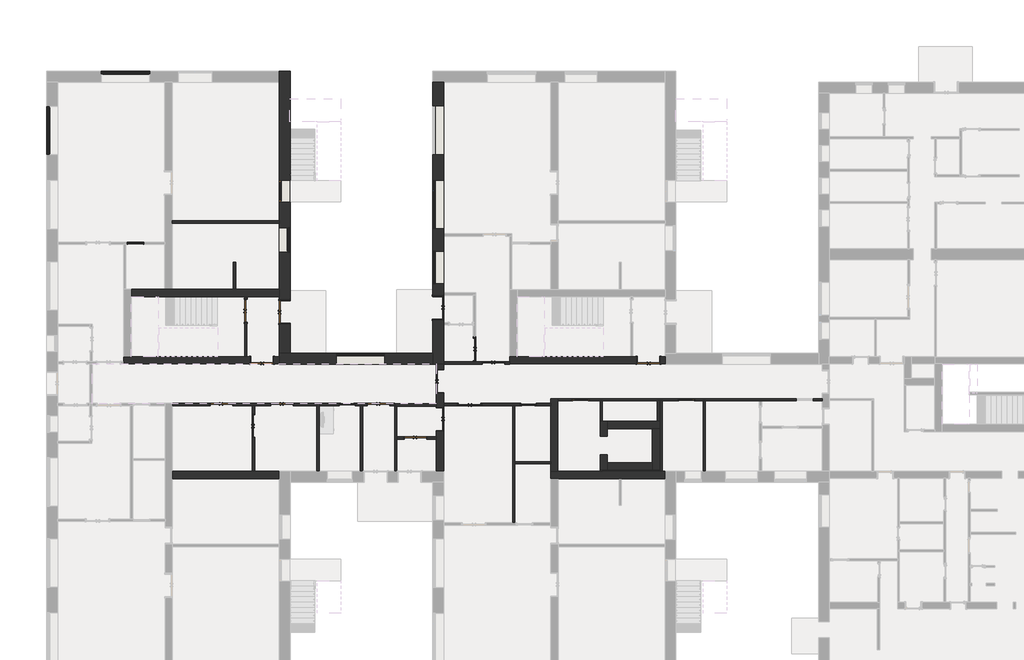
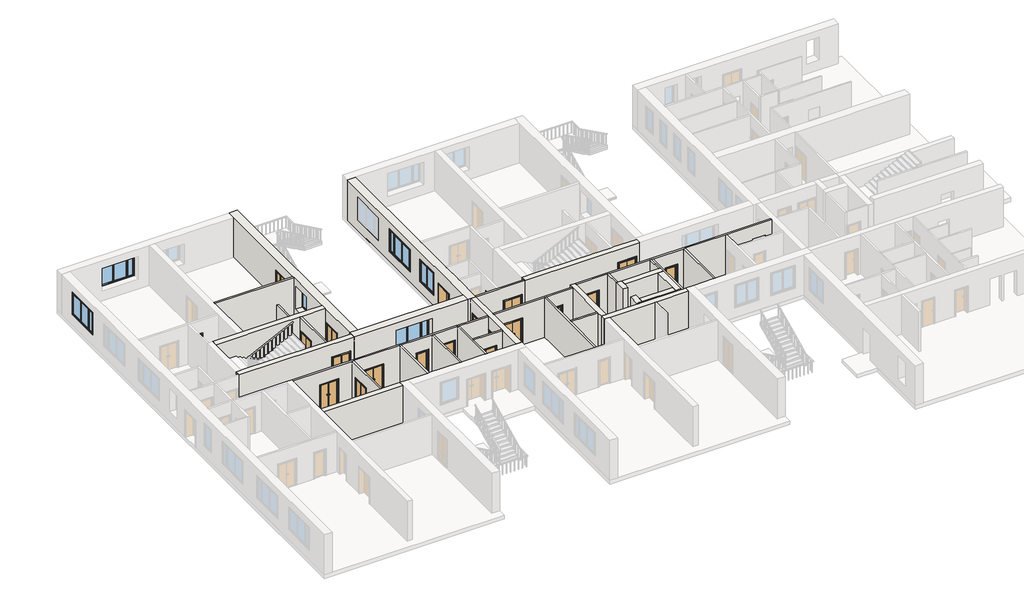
# One storey, part 3 of 10: 36 walls, 21 doors, 6 windows.
"""IFC4 building model written with IfcOpenShell, lengths in millimetres."""

from ifc_helpers import new_model, si_unit, frame, origin, origin_with_axes, place, context, project, spatial, polyline, outline, extrude, faceted_brep, transform, mapped, element, save
from components import door_ad1fb5ee, door_6cda5d05, door_6ba15531, door_47037448, door_428ffb38, window_17d24cb2, window_825c4489, window_e44eff39, window_8fb4b093

model = new_model("IFC4")

# Units and contexts
model_context = context("Model", 3, world=origin())
ifc_project = project(units=[si_unit("LENGTHUNIT", "METRE", prefix="MILLI")], contexts=[model_context])

# Site, building, storey
site = spatial("IfcSite", under=ifc_project)
building = spatial("IfcBuilding", under=site)
storey = spatial("IfcBuildingStorey", under=building, Name="1 этаж", Elevation=0.0)

# Doors
placement = place(None, origin())
door_shape = door_ad1fb5ee(model_context)
element("IfcDoor", 1, ObjectType="Внутренняя дверь 1-Навесная - 30970-2002 : ДПВ Г Б Л 2100-870 ГОСТ 30970-2002", at=placement, inside=storey, context=model_context, shape_type="MappedRepresentation", body=[
    mapped(door_shape, transform((-33469.8240021, 12998.1370105, 0.0), x_axis=(1.0, 0.0, 0.0), y_axis=(0.0, 1.0, 0.0), z_axis=(0.0, 0.0, 1.0))),
])
door_2_shape = door_6cda5d05(model_context)
element("IfcDoor", 2, ObjectType="Наружная дверь 2-Навесная - Один проем наружу с порогом - 31173-2003 : ДСН ДКН М2 2100-1300 ГОСТ 31173-2003", at=placement, inside=storey, context=model_context, shape_type="MappedRepresentation", body=[
    mapped(door_2_shape, transform((-13392.3240021, 6287.1370105, 0.0), x_axis=(-1.0, 0.0, 0.0), y_axis=(0.0, -1.0, 0.0), z_axis=(0.0, 0.0, 1.0))),
])
element("IfcDoor", 3, ObjectType="Наружная дверь 2-Навесная - Один проем наружу с порогом - 31173-2003 : ДСН ДКН М2 2100-1300 ГОСТ 31173-2003", at=placement, inside=storey, context=model_context, shape_type="MappedRepresentation", body=[
    mapped(door_2_shape, transform((-14464.8240021, 7047.1370105, 0.0), x_axis=(0.0, 1.0, 0.0), y_axis=(-1.0, 0.0, 0.0), z_axis=(0.0, 0.0, 1.0))),
])
door_3_shape = door_6ba15531(model_context)
element("IfcDoor", 4, ObjectType="Наружная дверь 2-Навесная - Один проем наружу с порогом - 31173-2003 : ДСН ДКН М2 2100-1300 ГОСТ 31173-2003", at=placement, inside=storey, context=model_context, shape_type="MappedRepresentation", body=[
    mapped(door_3_shape, transform((-16392.3240021, 5264.6370105, 0.0), x_axis=(0.0, -1.0, 0.0), y_axis=(1.0, 0.0, 0.0), z_axis=(0.0, 0.0, 1.0))),
])
element("IfcDoor", 5, ObjectType="Наружная дверь 2-Навесная - Один проем наружу с порогом - 31173-2003 : ДСН ДКН М2 2100-1300 ГОСТ 31173-2003", at=placement, inside=storey, context=model_context, shape_type="MappedRepresentation", body=[
    mapped(door_3_shape, transform((-4706.0740021, 6444.6370105, 0.0), x_axis=(1.0, 0.0, 0.0), y_axis=(0.0, 1.0, 0.0), z_axis=(0.0, 0.0, 1.0))),
])
element("IfcDoor", 6, ObjectType="Наружная дверь 2-Навесная - Один проем наружу с порогом - 31173-2003 : ДСН ДКН М2 2100-1300 ГОСТ 31173-2003", at=placement, inside=storey, context=model_context, shape_type="MappedRepresentation", body=[
    mapped(door_3_shape, transform((-16392.3240021, 3137.1370105, 0.0), x_axis=(0.0, 1.0, 0.0), y_axis=(-1.0, 0.0, 0.0), z_axis=(0.0, 0.0, 1.0))),
])
element("IfcDoor", 7, ObjectType="Наружная дверь 2-Навесная - Один проем наружу с порогом - 31173-2003 : ДСН ДКН М2 2100-1300 ГОСТ 31173-2003", at=placement, inside=storey, context=model_context, shape_type="MappedRepresentation", body=[
    mapped(door_3_shape, transform((-26379.8240021, 6444.6370105, 0.0), x_axis=(1.0, 0.0, 0.0), y_axis=(0.0, 1.0, 0.0), z_axis=(0.0, 0.0, 1.0))),
])
element("IfcDoor", 8, ObjectType="Наружная дверь 2-Навесная - Один проем наружу с порогом - 31173-2003 : ДСН ДКН М2 2100-1300 ГОСТ 31173-2003", at=placement, inside=storey, context=model_context, shape_type="MappedRepresentation", body=[
    mapped(door_2_shape, transform((-14732.3240021, 3962.1370105, 0.0), x_axis=(1.0, 0.0, 0.0), y_axis=(0.0, 1.0, 0.0), z_axis=(0.0, 0.0, 1.0))),
])
element("IfcDoor", 9, ObjectType="Наружная дверь 2-Навесная - Один проем наружу с порогом - 31173-2003 : ДСН ДКН М2 2100-1300 ГОСТ 31173-2003", at=placement, inside=storey, context=model_context, shape_type="MappedRepresentation", body=[
    mapped(door_2_shape, transform((-28649.8240021, 3962.1370105, 0.0), x_axis=(-1.0, 0.0, 0.0), y_axis=(0.0, -1.0, 0.0), z_axis=(0.0, 0.0, 1.0))),
])
element("IfcDoor", 10, ObjectType="Наружная дверь 2-Навесная - Один проем наружу с порогом - 31173-2003 : ДСН ДКН М2 2100-1300 ГОСТ 31173-2003", at=placement, inside=storey, context=model_context, shape_type="MappedRepresentation", body=[
    mapped(door_2_shape, transform((-26849.8240021, 2762.1370105, 0.0), x_axis=(0.0, -1.0, 0.0), y_axis=(1.0, 0.0, 0.0), z_axis=(0.0, 0.0, 1.0))),
])
element("IfcDoor", 11, ObjectType="Наружная дверь 2-Навесная - Один проем наружу с порогом - 31173-2003 : ДСН ДКН М2 2100-1300 ГОСТ 31173-2003", at=placement, inside=storey, context=model_context, shape_type="MappedRepresentation", body=[
    mapped(door_2_shape, transform((-25249.8240021, 3962.1370105, 0.0), x_axis=(-1.0, 0.0, 0.0), y_axis=(0.0, -1.0, 0.0), z_axis=(0.0, 0.0, 1.0))),
])
element("IfcDoor", 12, ObjectType="Наружная дверь 2-Навесная - Один проем наружу с порогом - 31173-2003 : ДСН ДКН М2 2100-1300 ГОСТ 31173-2003", at=placement, inside=storey, context=model_context, shape_type="MappedRepresentation", body=[
    mapped(door_2_shape, transform((-19837.3240021, 3962.1370105, 0.0), x_axis=(-1.0, 0.0, 0.0), y_axis=(0.0, -1.0, 0.0), z_axis=(0.0, 0.0, 1.0))),
])
element("IfcDoor", 13, ObjectType="Наружная дверь 2-Навесная - Один проем наружу с порогом - 31173-2003 : ДСН ДКН М2 2100-1300 ГОСТ 31173-2003", at=placement, inside=storey, context=model_context, shape_type="MappedRepresentation", body=[
    mapped(door_2_shape, transform((-17774.8240021, 2087.1370105, 0.0), x_axis=(-1.0, 0.0, 0.0), y_axis=(0.0, -1.0, 0.0), z_axis=(0.0, 0.0, 1.0))),
])
element("IfcDoor", 14, ObjectType="Наружная дверь 2-Навесная - Один проем наружу с порогом - 31173-2003 : ДСН ДКН М2 2100-1300 ГОСТ 31173-2003", at=placement, inside=storey, context=model_context, shape_type="MappedRepresentation", body=[
    mapped(door_2_shape, transform((-27279.8240021, 9214.6370105, 0.0), x_axis=(0.0, -1.0, 0.0), y_axis=(1.0, 0.0, 0.0), z_axis=(0.0, 0.0, 1.0))),
])
door_4_shape = door_47037448(model_context)
element("IfcDoor", 15, ObjectType="Наружная дверь 2-Навесная - Один проем наружу с порогом - 31173-2003 : ДСН ДКН М2 2100-1300 ГОСТ 31173-2003", at=placement, inside=storey, context=model_context, shape_type="MappedRepresentation", body=[
    mapped(door_4_shape, transform((-25107.3240021, 9154.6370105, 0.0), x_axis=(0.0, -1.0, 0.0), y_axis=(1.0, 0.0, 0.0), z_axis=(0.0, 0.0, 1.0))),
])
element("IfcDoor", 16, ObjectType="Наружная дверь 2-Навесная - Один проем наружу с порогом - 31173-2003 : ДСН ДКН М2 2100-1300 ГОСТ 31173-2003", at=placement, inside=storey, context=model_context, shape_type="MappedRepresentation", body=[
    mapped(door_4_shape, transform((-16497.3240021, 9382.1370105, 0.0), x_axis=(0.0, 1.0, 0.0), y_axis=(-1.0, 0.0, 0.0), z_axis=(0.0, 0.0, 1.0))),
])
element("IfcDoor", 17, ObjectType="Внутренняя дверь 1-Навесная - 30970-2002 : ДПВ Г Б Пр 2100-870 ГОСТ 30970-2002", at=placement, inside=storey, context=model_context, shape_type="MappedRepresentation", body=[
    mapped(door_shape, transform((-11439.8240021, 3971.1370105, 0.0), x_axis=(-1.0, 0.0, 0.0), y_axis=(0.0, -1.0, 0.0), z_axis=(0.0, 0.0, 1.0))),
])
element("IfcDoor", 18, ObjectType="Внутренняя дверь 1-Навесная - 30970-2002 : ДПВ Г Б Пр 2100-870 ГОСТ 30970-2002", at=placement, inside=storey, context=model_context, shape_type="MappedRepresentation", body=[
    mapped(door_shape, transform((-8509.8240021, 4223.1370105, 0.0), x_axis=(1.0, 0.0, 0.0), y_axis=(0.0, 1.0, 0.0), z_axis=(0.0, 0.0, 1.0))),
])
element("IfcDoor", 19, ObjectType="Внутренняя дверь 1-Навесная - 30970-2002 : ДПВ Г Б Пр 2100-870 ГОСТ 30970-2002", at=placement, inside=storey, context=model_context, shape_type="MappedRepresentation", body=[
    mapped(door_shape, transform((-2577.3240021, 4223.1370105, 0.0), x_axis=(1.0, 0.0, 0.0), y_axis=(0.0, 1.0, 0.0), z_axis=(0.0, 0.0, 1.0))),
])
element("IfcDoor", 20, ObjectType="Внутренняя дверь 1-Навесная - 30970-2002 : ДПВ Г Б Пр 2100-870 ГОСТ 30970-2002", at=placement, inside=storey, context=model_context, shape_type="MappedRepresentation", body=[
    mapped(door_shape, transform((-21594.7740021, 3953.1370105, 0.0), x_axis=(1.0, 0.0, 0.0), y_axis=(0.0, 1.0, 0.0), z_axis=(0.0, 0.0, 1.0))),
])
door_5_shape = door_428ffb38(model_context)
element("IfcDoor", 21, ObjectType="Балконная дверь 2-Распашная - Сдвоенные переплеты с остеклением - 11214-2003 : БД СП Д1 2175-1174-94 ГОСТ 11214-2003", at=placement, inside=storey, context=model_context, shape_type="MappedRepresentation", body=[
    mapped(door_5_shape, transform((-25107.3240021, 15927.1370105, 0.0), x_axis=(0.0, 1.0, 0.0), y_axis=(-1.0, 0.0, 0.0), z_axis=(0.0, 0.0, 1.0))),
])

# Walls
element("IfcWall", 22, ObjectType="ADSK_Внутренняя_Кирпич_610", at=placement, inside=storey, context=model_context, shape_type="Brep", body=[
    faceted_brep([(-24802.3240021, 22644.6370105, 0.0), (-24802.3240021, 22644.6370105, 3200.0), (-24802.3240021, 6834.6370105, 3200.0), (-24802.3240021, 6834.6370105, 0.0), (-24802.3240021, 8484.6370105, 0.0), (-24802.3240021, 8484.6370105, 2120.0), (-24802.3240021, 9824.6370105, 2120.0), (-24802.3240021, 9824.6370105, 0.0), (-24802.3240021, 12497.1370105, 800.0), (-24802.3240021, 12497.1370105, 2620.0), (-24802.3240021, 13877.1370105, 2620.0), (-24802.3240021, 13877.1370105, 800.0), (-24802.3240021, 15310.1370105, 100.0), (-24802.3240021, 15310.1370105, 2335.0), (-24802.3240021, 16544.1370105, 2335.0), (-24802.3240021, 16544.1370105, 100.0), (-25412.3240021, 22644.6370105, 3200.0), (-25412.3240021, 22644.6370105, 0.0), (-25412.3240021, 22034.6370105, 0.0), (-25412.3240021, 14259.6370105, 0.0), (-25412.3240021, 14114.6370105, 0.0), (-25412.3240021, 10424.6370105, 0.0), (-25412.3240021, 10004.6370105, 0.0), (-25412.3240021, 9824.6370105, 0.0), (-25412.3240021, 9824.6370105, 2120.0), (-25412.3240021, 8484.6370105, 2120.0), (-25412.3240021, 8484.6370105, 0.0), (-25412.3240021, 6834.6370105, 0.0), (-25412.3240021, 6834.6370105, 3200.0), (-25412.3240021, 10004.6370105, 3200.0), (-25412.3240021, 10424.6370105, 3200.0), (-25412.3240021, 14114.6370105, 3200.0), (-25412.3240021, 14259.6370105, 3200.0), (-25412.3240021, 22034.6370105, 3200.0), (-25412.3240021, 12497.1370105, 800.0), (-25412.3240021, 13877.1370105, 800.0), (-25412.3240021, 13877.1370105, 2620.0), (-25412.3240021, 12497.1370105, 2620.0), (-25412.3240021, 15310.1370105, 100.0), (-25412.3240021, 16544.1370105, 100.0), (-25412.3240021, 16544.1370105, 2335.0), (-25412.3240021, 15310.1370105, 2335.0)], [[[0, 1, 2, 3, 4, 5, 6, 7], [8, 9, 10, 11], [12, 13, 14, 15]], [[16, 17, 18, 19, 20, 21, 22, 23, 24, 25, 26, 27, 28, 29, 30, 31, 32, 33], [34, 35, 36, 37], [38, 39, 40, 41]], [[17, 0, 7, 23, 22, 21, 20, 19, 18]], [[3, 27, 26, 4]], [[1, 0, 17, 16]], [[3, 2, 28, 27]], [[25, 5, 4, 26]], [[5, 25, 24, 6]], [[6, 24, 23, 7]], [[9, 8, 34, 37]], [[10, 9, 37, 36]], [[11, 10, 36, 35]], [[8, 11, 35, 34]], [[13, 12, 38, 41]], [[14, 13, 41, 40]], [[15, 14, 40, 39]], [[12, 15, 39, 38]], [[2, 1, 16, 33, 32, 31, 30, 29, 28]]]),
])
element("IfcWall", 23, ObjectType="ADSK_Внутренняя_Кирпич_610", at=placement, inside=storey, context=model_context, shape_type="Brep", body=[
    faceted_brep([(-16802.3240021, 22034.6370105, 3200.0), (-16802.3240021, 22034.6370105, 0.0), (-16802.3240021, 10052.1370105, 0.0), (-16802.3240021, 10052.1370105, 2120.0), (-16802.3240021, 8712.1370105, 2120.0), (-16802.3240021, 8712.1370105, 0.0), (-16802.3240021, 6834.6370105, 0.0), (-16802.3240021, 6224.6370105, 0.0), (-16802.3240021, 6224.6370105, 3200.0), (-16802.3240021, 6834.6370105, 3200.0), (-16802.3240021, 16537.1370105, 800.0), (-16802.3240021, 16537.1370105, 2620.0), (-16802.3240021, 13807.1370105, 2620.0), (-16802.3240021, 13807.1370105, 800.0), (-16802.3240021, 17974.6370105, 800.0), (-16802.3240021, 20704.6370105, 800.0), (-16802.3240021, 20704.6370105, 2620.0), (-16802.3240021, 17974.6370105, 2620.0), (-16802.3240021, 10727.1370105, 800.0), (-16802.3240021, 12557.1370105, 800.0), (-16802.3240021, 12557.1370105, 2620.0), (-16802.3240021, 10727.1370105, 2620.0), (-16192.3240021, 22034.6370105, 3200.0), (-16192.3240021, 13534.6370105, 3200.0), (-16192.3240021, 13409.6370105, 3200.0), (-16192.3240021, 10224.6370105, 3200.0), (-16192.3240021, 10099.6370105, 3200.0), (-16192.3240021, 8549.6370105, 3200.0), (-16192.3240021, 8424.6370105, 3200.0), (-16192.3240021, 6349.6370105, 3200.0), (-16192.3240021, 6224.6370105, 3200.0), (-16192.3240021, 6224.6370105, 0.0), (-16192.3240021, 6349.6370105, 0.0), (-16192.3240021, 8424.6370105, 0.0), (-16192.3240021, 8549.6370105, 0.0), (-16192.3240021, 8712.1370105, 0.0), (-16192.3240021, 8712.1370105, 2120.0), (-16192.3240021, 10052.1370105, 2120.0), (-16192.3240021, 10052.1370105, 0.0), (-16192.3240021, 10099.6370105, 0.0), (-16192.3240021, 10224.6370105, 0.0), (-16192.3240021, 13409.6370105, 0.0), (-16192.3240021, 13534.6370105, 0.0), (-16192.3240021, 22034.6370105, 0.0), (-16192.3240021, 16537.1370105, 800.0), (-16192.3240021, 13807.1370105, 800.0), (-16192.3240021, 13807.1370105, 2620.0), (-16192.3240021, 16537.1370105, 2620.0), (-16192.3240021, 17974.6370105, 800.0), (-16192.3240021, 17974.6370105, 2620.0), (-16192.3240021, 20704.6370105, 2620.0), (-16192.3240021, 20704.6370105, 800.0), (-16192.3240021, 10727.1370105, 800.0), (-16192.3240021, 10727.1370105, 2620.0), (-16192.3240021, 12557.1370105, 2620.0), (-16192.3240021, 12557.1370105, 800.0), (-16592.3240021, 6224.6370105, 0.0), (-16592.3240021, 6224.6370105, 3200.0)], [[[0, 1, 2, 3, 4, 5, 6, 7, 8, 9], [10, 11, 12, 13], [14, 15, 16, 17], [18, 19, 20, 21]], [[22, 23, 24, 25, 26, 27, 28, 29, 30, 31, 32, 33, 34, 35, 36, 37, 38, 39, 40, 41, 42, 43], [44, 45, 46, 47], [48, 49, 50, 51], [52, 53, 54, 55]], [[1, 43, 42, 41, 40, 39, 38, 2]], [[31, 56, 7, 6, 5, 35, 34, 33, 32]], [[1, 0, 22, 43]], [[8, 7, 56, 31, 30, 57]], [[37, 3, 2, 38]], [[3, 37, 36, 4]], [[4, 36, 35, 5]], [[11, 10, 44, 47]], [[12, 11, 47, 46]], [[13, 12, 46, 45]], [[10, 13, 45, 44]], [[49, 48, 14, 17]], [[50, 49, 17, 16]], [[51, 50, 16, 15]], [[48, 51, 15, 14]], [[53, 52, 18, 21]], [[54, 53, 21, 20]], [[55, 54, 20, 19]], [[52, 55, 19, 18]], [[30, 29, 28, 27, 26, 25, 24, 23, 22, 0, 9, 8, 57]]]),
])
element("IfcWall", 24, ObjectType="ADSK_Внутренняя_Кирпич_610", at=placement, inside=storey, context=model_context, shape_type="Brep", body=[
    faceted_brep([(-16802.3240021, 6834.6370105, 0.0), (-24802.3240021, 6834.6370105, 0.0), (-25412.3240021, 6834.6370105, 0.0), (-25412.3240021, 6834.6370105, 3200.0), (-24802.3240021, 6834.6370105, 3200.0), (-16802.3240021, 6834.6370105, 3200.0), (-19482.3240021, 6834.6370105, 800.0), (-19482.3240021, 6834.6370105, 2620.0), (-22212.3240021, 6834.6370105, 2620.0), (-22212.3240021, 6834.6370105, 800.0), (-16802.3240021, 6224.6370105, 0.0), (-16802.3240021, 6224.6370105, 3200.0), (-25412.3240021, 6224.6370105, 3200.0), (-25412.3240021, 6224.6370105, 0.0), (-19482.3240021, 6224.6370105, 800.0), (-22212.3240021, 6224.6370105, 800.0), (-22212.3240021, 6224.6370105, 2620.0), (-19482.3240021, 6224.6370105, 2620.0), (-25412.3240021, 6244.6370105, 0.0), (-25412.3240021, 6644.6370105, 0.0), (-25412.3240021, 6244.6370105, 3200.0), (-25412.3240021, 6644.6370105, 3200.0)], [[[0, 1, 2, 3, 4, 5], [6, 7, 8, 9]], [[10, 11, 12, 13], [14, 15, 16, 17]], [[2, 1, 0, 10, 13, 18, 19]], [[0, 5, 11, 10]], [[3, 2, 19, 18, 13, 12, 20, 21]], [[7, 6, 14, 17]], [[8, 7, 17, 16]], [[9, 8, 16, 15]], [[6, 9, 15, 14]], [[5, 4, 3, 21, 20, 12, 11]]]),
])
element("IfcWall", 25, ObjectType="ADSK_Внутренняя_Кирпич_380+20", at=placement, inside=storey, context=model_context, shape_type="Brep", body=[
    faceted_brep([(-16192.3240021, 6224.6370105, 0.0), (-16192.3240021, 6224.6370105, 3200.0), (-16192.3240021, 4024.6370105, 3200.0), (-16192.3240021, 3899.6370105, 3200.0), (-16192.3240021, 224.6370105, 3200.0), (-16192.3240021, 224.6370105, 0.0), (-16192.3240021, 2467.1370105, 0.0), (-16192.3240021, 2467.1370105, 2120.0), (-16192.3240021, 3807.1370105, 2120.0), (-16192.3240021, 3807.1370105, 0.0), (-16192.3240021, 3899.6370105, 0.0), (-16192.3240021, 4024.6370105, 0.0), (-16192.3240021, 4594.6370105, 0.0), (-16192.3240021, 4594.6370105, 2120.0), (-16192.3240021, 5934.6370105, 2120.0), (-16192.3240021, 5934.6370105, 0.0), (-16592.3240021, 6224.6370105, 3200.0), (-16592.3240021, 6224.6370105, 0.0), (-16592.3240021, 5934.6370105, 0.0), (-16592.3240021, 5934.6370105, 2120.0), (-16592.3240021, 4594.6370105, 2120.0), (-16592.3240021, 4594.6370105, 0.0), (-16592.3240021, 3999.6370105, 0.0), (-16592.3240021, 3874.6370105, 0.0), (-16592.3240021, 3807.1370105, 0.0), (-16592.3240021, 3807.1370105, 2120.0), (-16592.3240021, 2467.1370105, 2120.0), (-16592.3240021, 2467.1370105, 0.0), (-16592.3240021, 2149.6370105, 0.0), (-16592.3240021, 2024.6370105, 0.0), (-16592.3240021, 224.6370105, 0.0), (-16592.3240021, 224.6370105, 3200.0), (-16592.3240021, 2024.6370105, 3200.0), (-16592.3240021, 2149.6370105, 3200.0), (-16592.3240021, 3874.6370105, 3200.0), (-16592.3240021, 3999.6370105, 3200.0)], [[[0, 1, 2, 3, 4, 5, 6, 7, 8, 9, 10, 11, 12, 13, 14, 15]], [[16, 17, 18, 19, 20, 21, 22, 23, 24, 25, 26, 27, 28, 29, 30, 31, 32, 33, 34, 35]], [[17, 0, 15, 18]], [[5, 30, 29, 28, 27, 6]], [[21, 12, 11, 10, 9, 24, 23, 22]], [[1, 0, 17, 16]], [[5, 4, 31, 30]], [[20, 13, 12, 21]], [[13, 20, 19, 14]], [[14, 19, 18, 15]], [[8, 25, 24, 9]], [[25, 8, 7, 26]], [[26, 7, 6, 27]], [[4, 3, 2, 1, 16, 35, 34, 33, 32, 31]]]),
])
element("IfcWall", 26, ObjectType="ADSK_Внутренняя_Перегородка_125", at=placement, inside=storey, context=model_context, shape_type="Brep", body=[
    faceted_brep([(-18937.3240021, 3874.6370105, 0.0), (-18812.3240021, 3874.6370105, 0.0), (-16592.3240021, 3874.6370105, 0.0), (-16592.3240021, 3874.6370105, 3200.0), (-18812.3240021, 3874.6370105, 3200.0), (-18937.3240021, 3874.6370105, 3200.0), (-18937.3240021, 3999.6370105, 0.0), (-18937.3240021, 3999.6370105, 3200.0), (-16592.3240021, 3999.6370105, 3200.0), (-16592.3240021, 3999.6370105, 0.0), (-18937.3240021, 3899.6370105, 0.0), (-18937.3240021, 3899.6370105, 3200.0)], [[[0, 1, 2, 3, 4, 5]], [[6, 7, 8, 9]], [[2, 1, 0, 10, 6, 9]], [[0, 5, 11, 7, 6, 10]], [[3, 2, 9, 8]], [[5, 4, 3, 8, 7, 11]]]),
])
element("IfcWall", 27, ObjectType="ADSK_Внутренняя_Кирпич_380+20", at=placement, inside=storey, context=model_context, shape_type="Brep", body=[
    faceted_brep([(-34132.3240021, 6644.6370105, 0.0), (-34132.3240021, 6644.6370105, 3200.0), (-33712.7240021, 6644.6370105, 3200.0), (-33712.3240021, 6644.6370105, 3200.0), (-28882.0291278, 6644.6370105, 3200.0), (-27342.3240021, 6644.6370105, 3200.0), (-27217.3240021, 6644.6370105, 3200.0), (-25412.3240021, 6644.6370105, 3200.0), (-25412.3240021, 6644.6370105, 0.0), (-25709.8240021, 6644.6370105, 0.0), (-25709.8240021, 6644.6370105, 2120.0), (-27049.8240021, 6644.6370105, 2120.0), (-27049.8240021, 6644.6370105, 0.0), (-27217.3240021, 6644.6370105, 0.0), (-27342.3240021, 6644.6370105, 0.0), (-33712.3240021, 6644.6370105, 0.0), (-25412.3240021, 6244.6370105, 3200.0), (-34132.3240021, 6244.6370105, 3200.0), (-34132.3240021, 6244.6370105, 0.0), (-27049.8240021, 6244.6370105, 0.0), (-27049.8240021, 6244.6370105, 2120.0), (-25709.8240021, 6244.6370105, 2120.0), (-25709.8240021, 6244.6370105, 0.0), (-25412.3240021, 6244.6370105, 0.0), (-34132.3240021, 6369.6370105, 0.0), (-34132.3240021, 6369.6370105, 3200.0)], [[[0, 1, 2, 3, 4, 5, 6, 7, 8, 9, 10, 11, 12, 13, 14, 15]], [[16, 17, 18, 19, 20, 21, 22, 23]], [[8, 23, 22, 9]], [[18, 24, 0, 15, 14, 13, 12, 19]], [[1, 0, 24, 18, 17, 25]], [[8, 7, 16, 23]], [[21, 10, 9, 22]], [[10, 21, 20, 11]], [[11, 20, 19, 12]], [[17, 16, 7, 6, 5, 4, 3, 2, 1, 25]]]),
])
element("IfcWall", 28, ObjectType="ADSK_Внутренняя_Кирпич_380+20х2", at=placement, inside=storey, context=model_context, shape_type="Brep", body=[
    faceted_brep([(-33712.3240021, 10004.6370105, 0.0), (-27342.3240021, 10004.6370105, 0.0), (-27217.3240021, 10004.6370105, 0.0), (-25412.3240021, 10004.6370105, 0.0), (-25412.3240021, 10004.6370105, 3200.0), (-27217.3240021, 10004.6370105, 3200.0), (-27342.3240021, 10004.6370105, 3200.0), (-28882.0291278, 10004.6370105, 3200.0), (-33712.3240021, 10004.6370105, 3200.0), (-33712.3240021, 10424.6370105, 0.0), (-33712.3240021, 10424.6370105, 3200.0), (-31832.3240021, 10424.6370105, 3200.0), (-31412.3240021, 10424.6370105, 3200.0), (-27982.2740021, 10424.6370105, 3200.0), (-27857.2740021, 10424.6370105, 3200.0), (-25412.3240021, 10424.6370105, 3200.0), (-25412.3240021, 10424.6370105, 0.0), (-27857.2740021, 10424.6370105, 0.0), (-27982.2740021, 10424.6370105, 0.0), (-31412.3240021, 10424.6370105, 0.0), (-31832.3240021, 10424.6370105, 0.0)], [[[0, 1, 2, 3, 4, 5, 6, 7, 8]], [[9, 10, 11, 12, 13, 14, 15, 16, 17, 18, 19, 20]], [[3, 2, 1, 0, 9, 20, 19, 18, 17, 16]], [[0, 8, 10, 9]], [[4, 3, 16, 15]], [[8, 7, 6, 5, 4, 15, 14, 13, 12, 11, 10]]]),
])
element("IfcWall", 29, ObjectType="ADSK_Внутренняя_Кирпич_380+20", at=placement, inside=storey, context=model_context, shape_type="Brep", body=[
    faceted_brep([(-3772.3240021, 6644.6370105, 3200.0), (-3772.3240021, 6644.6370105, 0.0), (-4036.0740021, 6644.6370105, 0.0), (-4036.0740021, 6644.6370105, 2120.0), (-5376.0740021, 6644.6370105, 2120.0), (-5376.0740021, 6644.6370105, 0.0), (-5577.3240021, 6644.6370105, 0.0), (-5702.3240021, 6644.6370105, 0.0), (-12072.3240021, 6644.6370105, 0.0), (-12472.3240021, 6644.6370105, 0.0), (-12472.3240021, 6644.6370105, 3200.0), (-12072.3240021, 6644.6370105, 3200.0), (-7241.6291278, 6644.6370105, 3200.0), (-5702.3240021, 6644.6370105, 3200.0), (-5577.3240021, 6644.6370105, 3200.0), (-3772.3240021, 6244.6370105, 3200.0), (-12472.3240021, 6244.6370105, 3200.0), (-12472.3240021, 6244.6370105, 0.0), (-5376.0740021, 6244.6370105, 0.0), (-5376.0740021, 6244.6370105, 2120.0), (-4036.0740021, 6244.6370105, 2120.0), (-4036.0740021, 6244.6370105, 0.0), (-3772.3240021, 6244.6370105, 0.0), (-12472.3240021, 6349.6370105, 0.0), (-12472.3240021, 6349.6370105, 3200.0)], [[[0, 1, 2, 3, 4, 5, 6, 7, 8, 9, 10, 11, 12, 13, 14]], [[15, 16, 17, 18, 19, 20, 21, 22]], [[1, 22, 21, 2]], [[17, 23, 9, 8, 7, 6, 5, 18]], [[1, 0, 15, 22]], [[10, 9, 23, 17, 16, 24]], [[20, 3, 2, 21]], [[3, 20, 19, 4]], [[4, 19, 18, 5]], [[16, 15, 0, 14, 13, 12, 11, 10, 24]]]),
])
element("IfcWall", 30, ObjectType="ADSK_Внутренняя_Кирпич_380+20", at=placement, inside=storey, context=model_context, shape_type="Brep", body=[
    faceted_brep([(-3772.3240021, 204.6370105, 0.0), (-3929.3240021, 204.6370105, 0.0), (-4054.3240021, 204.6370105, 0.0), (-7287.3240021, 204.6370105, 0.0), (-7412.3240021, 204.6370105, 0.0), (-9792.3240021, 204.6370105, 0.0), (-10172.3240021, 204.6370105, 0.0), (-10172.3240021, 204.6370105, 3200.0), (-9792.3240021, 204.6370105, 3200.0), (-7412.3240021, 204.6370105, 3200.0), (-7287.3240021, 204.6370105, 3200.0), (-4054.3240021, 204.6370105, 3200.0), (-3929.3240021, 204.6370105, 3200.0), (-3772.3240021, 204.6370105, 3200.0), (-3772.3240021, -195.3629895, 0.0), (-3772.3240021, -195.3629895, 3200.0), (-6219.7740021, -195.3629895, 3200.0), (-6344.7740021, -195.3629895, 3200.0), (-9772.3240021, -195.3629895, 3200.0), (-10172.3240021, -195.3629895, 3200.0), (-10172.3240021, -195.3629895, 0.0), (-9772.3240021, -195.3629895, 0.0), (-6344.7740021, -195.3629895, 0.0), (-6219.7740021, -195.3629895, 0.0)], [[[0, 1, 2, 3, 4, 5, 6, 7, 8, 9, 10, 11, 12, 13]], [[14, 15, 16, 17, 18, 19, 20, 21, 22, 23]], [[6, 5, 4, 3, 2, 1, 0, 14, 23, 22, 21, 20]], [[0, 13, 15, 14]], [[7, 6, 20, 19]], [[13, 12, 11, 10, 9, 8, 7, 19, 18, 17, 16, 15]]]),
])
element("IfcWall", 31, ObjectType="ADSK_Внутренняя_Кирпич_380", at=placement, inside=storey, context=model_context, shape_type="Brep", body=[
    faceted_brep([(-10172.3240021, 4294.6370105, 0.0), (-10172.3240021, 4024.6370105, 0.0), (-10172.3240021, 3899.6370105, 0.0), (-10172.3240021, 762.1370105, 0.0), (-10172.3240021, 637.1370105, 0.0), (-10172.3240021, 204.6370105, 0.0), (-10172.3240021, 204.6370105, 3200.0), (-10172.3240021, 637.1370105, 3200.0), (-10172.3240021, 762.1370105, 3200.0), (-10172.3240021, 3899.6370105, 3200.0), (-10172.3240021, 4024.6370105, 3200.0), (-10172.3240021, 4294.6370105, 3200.0), (-9792.3240021, 4294.6370105, 0.0), (-9792.3240021, 4294.6370105, 3200.0), (-9792.3240021, 4169.6370105, 3200.0), (-9792.3240021, 204.6370105, 3200.0), (-9792.3240021, 204.6370105, 0.0), (-9792.3240021, 4169.6370105, 0.0)], [[[0, 1, 2, 3, 4, 5, 6, 7, 8, 9, 10, 11]], [[12, 13, 14, 15, 16, 17]], [[5, 4, 3, 2, 1, 0, 12, 17, 16]], [[6, 5, 16, 15]], [[0, 11, 13, 12]], [[11, 10, 9, 8, 7, 6, 15, 14, 13]]]),
])
element("IfcWall", 32, ObjectType="ADSK_Внутренняя_Кирпич_380+20х2", at=placement, inside=storey, context=model_context, shape_type="Brep", body=[
    faceted_brep([(-25412.3240021, 224.6370105, 0.0), (-26787.3240021, 224.6370105, 0.0), (-26912.3240021, 224.6370105, 0.0), (-31412.3240021, 224.6370105, 0.0), (-31412.3240021, 224.6370105, 3200.0), (-26912.3240021, 224.6370105, 3200.0), (-26787.3240021, 224.6370105, 3200.0), (-25412.3240021, 224.6370105, 3200.0), (-25412.3240021, -195.3629895, 0.0), (-25412.3240021, -195.3629895, 3200.0), (-31412.3240021, -195.3629895, 3200.0), (-31412.3240021, -195.3629895, 0.0)], [[[0, 1, 2, 3, 4, 5, 6, 7]], [[8, 9, 10, 11]], [[3, 2, 1, 0, 8, 11]], [[0, 7, 9, 8]], [[4, 3, 11, 10]], [[7, 6, 5, 4, 10, 9]]]),
])
element("IfcWall", 33, ObjectType="ADSK_Внутренняя_Перегородка_125", at=placement, inside=storey, context=model_context, shape_type="SweptSolid", body=[
    extrude(outline(polyline([(-20857.2740021, 224.6370105), (-20857.2740021, 3899.6370105), (-20732.2740021, 3899.6370105), (-20732.2740021, 224.6370105), (-20857.2740021, 224.6370105)])), origin_with_axes(), (0.0, 0.0, 1.0), 3200.0),
])
element("IfcWall", 34, ObjectType="ADSK_Внутренняя_Перегородка_125", at=placement, inside=storey, context=model_context, shape_type="Brep", body=[
    faceted_brep([(-18812.3240021, 224.6370105, 0.0), (-18812.3240021, 2024.6370105, 0.0), (-18812.3240021, 2149.6370105, 0.0), (-18812.3240021, 3874.6370105, 0.0), (-18812.3240021, 3874.6370105, 3200.0), (-18812.3240021, 2149.6370105, 3200.0), (-18812.3240021, 2024.6370105, 3200.0), (-18812.3240021, 224.6370105, 3200.0), (-18937.3240021, 224.6370105, 0.0), (-18937.3240021, 224.6370105, 3200.0), (-18937.3240021, 3874.6370105, 3200.0), (-18937.3240021, 3874.6370105, 0.0)], [[[0, 1, 2, 3, 4, 5, 6, 7]], [[8, 9, 10, 11]], [[3, 2, 1, 0, 8, 11]], [[4, 3, 11, 10]], [[0, 7, 9, 8]], [[7, 6, 5, 4, 10, 9]]]),
])
element("IfcWall", 35, ObjectType="ADSK_Внутренняя_Перегородка_25_75_25", at=placement, inside=storey, context=model_context, shape_type="Brep", body=[
    faceted_brep([(-23172.3240021, 224.6370105, 0.0), (-23172.3240021, 3899.6370105, 0.0), (-23172.3240021, 4024.6370105, 0.0), (-23172.3240021, 4024.6370105, 3200.0), (-23172.3240021, 3899.6370105, 3200.0), (-23172.3240021, 224.6370105, 3200.0), (-23297.3240021, 224.6370105, 0.0), (-23297.3240021, 224.6370105, 3200.0), (-23297.3240021, 3899.6370105, 3200.0), (-23297.3240021, 4024.6370105, 3200.0), (-23297.3240021, 4024.6370105, 0.0), (-23297.3240021, 3899.6370105, 0.0)], [[[0, 1, 2, 3, 4, 5]], [[6, 7, 8, 9, 10, 11]], [[2, 1, 0, 6, 11, 10]], [[0, 5, 7, 6]], [[3, 2, 10, 9]], [[5, 4, 3, 9, 8, 7]]]),
])
element("IfcWall", 36, ObjectType="ADSK_Внутренняя_Перегородка_25_75_25", at=placement, inside=storey, context=model_context, shape_type="Brep", body=[
    faceted_brep([(-31412.3240021, 4024.6370105, 0.0), (-31412.3240021, 4024.6370105, 3200.0), (-23297.3240021, 4024.6370105, 3200.0), (-23297.3240021, 4024.6370105, 0.0), (-24579.8240021, 4024.6370105, 0.0), (-24579.8240021, 4024.6370105, 2120.0), (-25919.8240021, 4024.6370105, 2120.0), (-25919.8240021, 4024.6370105, 0.0), (-27979.8240021, 4024.6370105, 0.0), (-27979.8240021, 4024.6370105, 2120.0), (-29319.8240021, 4024.6370105, 2120.0), (-29319.8240021, 4024.6370105, 0.0), (-31412.3240021, 3899.6370105, 3200.0), (-31412.3240021, 3899.6370105, 0.0), (-29319.8240021, 3899.6370105, 0.0), (-29319.8240021, 3899.6370105, 2120.0), (-27979.8240021, 3899.6370105, 2120.0), (-27979.8240021, 3899.6370105, 0.0), (-26912.3240021, 3899.6370105, 0.0), (-26787.3240021, 3899.6370105, 0.0), (-25919.8240021, 3899.6370105, 0.0), (-25919.8240021, 3899.6370105, 2120.0), (-24579.8240021, 3899.6370105, 2120.0), (-24579.8240021, 3899.6370105, 0.0), (-23297.3240021, 3899.6370105, 0.0), (-23297.3240021, 3899.6370105, 3200.0), (-26787.3240021, 3899.6370105, 3200.0), (-26912.3240021, 3899.6370105, 3200.0)], [[[0, 1, 2, 3, 4, 5, 6, 7, 8, 9, 10, 11]], [[12, 13, 14, 15, 16, 17, 18, 19, 20, 21, 22, 23, 24, 25, 26, 27]], [[3, 24, 23, 4]], [[13, 0, 11, 14]], [[17, 8, 7, 20, 19, 18]], [[1, 0, 13, 12]], [[3, 2, 25, 24]], [[10, 15, 14, 11]], [[15, 10, 9, 16]], [[16, 9, 8, 17]], [[6, 21, 20, 7]], [[21, 6, 5, 22]], [[22, 5, 4, 23]], [[2, 1, 12, 27, 26, 25]]]),
])
element("IfcWall", 37, ObjectType="ADSK_Внутренняя_Перегородка_125", at=placement, inside=storey, context=model_context, shape_type="Brep", body=[
    faceted_brep([(-18937.3240021, 3899.6370105, 0.0), (-18937.3240021, 3899.6370105, 3200.0), (-20732.2740021, 3899.6370105, 3200.0), (-20857.2740021, 3899.6370105, 3200.0), (-23172.3240021, 3899.6370105, 3200.0), (-23172.3240021, 3899.6370105, 0.0), (-22079.7740021, 3899.6370105, 0.0), (-22079.7740021, 3899.6370105, 2150.0), (-21109.7740021, 3899.6370105, 2150.0), (-21109.7740021, 3899.6370105, 0.0), (-20857.2740021, 3899.6370105, 0.0), (-20732.2740021, 3899.6370105, 0.0), (-20507.3240021, 3899.6370105, 0.0), (-20507.3240021, 3899.6370105, 2120.0), (-19167.3240021, 3899.6370105, 2120.0), (-19167.3240021, 3899.6370105, 0.0), (-18937.3240021, 4024.6370105, 3200.0), (-18937.3240021, 4024.6370105, 0.0), (-19167.3240021, 4024.6370105, 0.0), (-19167.3240021, 4024.6370105, 2120.0), (-20507.3240021, 4024.6370105, 2120.0), (-20507.3240021, 4024.6370105, 0.0), (-21109.7740021, 4024.6370105, 0.0), (-21109.7740021, 4024.6370105, 2150.0), (-22079.7740021, 4024.6370105, 2150.0), (-22079.7740021, 4024.6370105, 0.0), (-23172.3240021, 4024.6370105, 0.0), (-23172.3240021, 4024.6370105, 3200.0), (-18937.3240021, 3999.6370105, 0.0), (-18937.3240021, 3999.6370105, 3200.0)], [[[0, 1, 2, 3, 4, 5, 6, 7, 8, 9, 10, 11, 12, 13, 14, 15]], [[16, 17, 18, 19, 20, 21, 22, 23, 24, 25, 26, 27]], [[5, 26, 25, 6]], [[17, 28, 0, 15, 18]], [[21, 12, 11, 10, 9, 22]], [[1, 0, 28, 17, 16, 29]], [[5, 4, 27, 26]], [[20, 13, 12, 21]], [[13, 20, 19, 14]], [[14, 19, 18, 15]], [[8, 23, 22, 9]], [[23, 8, 7, 24]], [[24, 7, 6, 25]], [[4, 3, 2, 1, 29, 16, 27]]]),
])
element("IfcWall", 38, ObjectType="ADSK_Внутренняя_Перегородка_25_75_25", at=placement, inside=storey, context=model_context, shape_type="SweptSolid", body=[
    extrude(outline(polyline([(224.6370105, 0.0), (224.6370105, 3200.0), (3899.6370105, 3200.0), (3899.6370105, 0.0), (3432.1370105, 0.0), (3432.1370105, 2120.0), (2092.1370105, 2120.0), (2092.1370105, 0.0), (224.6370105, 0.0)])), frame((-26912.3240021, 0.0, 0.0), z_axis=(1.0, 0.0, 0.0), x_axis=(0.0, 1.0, 0.0)), (0.0, 0.0, 1.0), 125.0),
])
element("IfcWall", 39, ObjectType="ADSK_Внутренняя_Перегородка_125", at=placement, inside=storey, context=model_context, shape_type="SweptSolid", body=[
    extrude(outline(polyline([(0.0, -16592.3240021), (3200.0, -16592.3240021), (3200.0, -18812.3240021), (0.0, -18812.3240021), (0.0, -18444.8240021), (2120.0, -18444.8240021), (2120.0, -17104.8240021), (0.0, -17104.8240021), (0.0, -16592.3240021)])), frame((0.0, 2024.6370105, 0.0), z_axis=(0.0, 1.0, 0.0), x_axis=(0.0, 0.0, 1.0)), (0.0, 0.0, 1.0), 125.0),
])
element("IfcWall", 40, ObjectType="ADSK_Внутренняя_Перегородка_25_75_25", at=placement, inside=storey, context=model_context, shape_type="Brep", body=[
    faceted_brep([(-16192.3240021, 3899.6370105, 3200.0), (-16192.3240021, 3899.6370105, 0.0), (-15402.3240021, 3899.6370105, 0.0), (-15402.3240021, 3899.6370105, 2120.0), (-14062.3240021, 3899.6370105, 2120.0), (-14062.3240021, 3899.6370105, 0.0), (-12322.3240021, 3899.6370105, 0.0), (-12197.3240021, 3899.6370105, 0.0), (-11924.8240021, 3899.6370105, 0.0), (-11924.8240021, 3899.6370105, 2150.0), (-10954.8240021, 3899.6370105, 2150.0), (-10954.8240021, 3899.6370105, 0.0), (-10172.3240021, 3899.6370105, 0.0), (-10172.3240021, 3899.6370105, 3200.0), (-12197.3240021, 3899.6370105, 3200.0), (-12322.3240021, 3899.6370105, 3200.0), (-16192.3240021, 4024.6370105, 0.0), (-16192.3240021, 4024.6370105, 3200.0), (-10172.3240021, 4024.6370105, 3200.0), (-10172.3240021, 4024.6370105, 0.0), (-10954.8240021, 4024.6370105, 0.0), (-10954.8240021, 4024.6370105, 2150.0), (-11924.8240021, 4024.6370105, 2150.0), (-11924.8240021, 4024.6370105, 0.0), (-14062.3240021, 4024.6370105, 0.0), (-14062.3240021, 4024.6370105, 2120.0), (-15402.3240021, 4024.6370105, 2120.0), (-15402.3240021, 4024.6370105, 0.0)], [[[0, 1, 2, 3, 4, 5, 6, 7, 8, 9, 10, 11, 12, 13, 14, 15]], [[16, 17, 18, 19, 20, 21, 22, 23, 24, 25, 26, 27]], [[1, 16, 27, 2]], [[19, 12, 11, 20]], [[5, 24, 23, 8, 7, 6]], [[1, 0, 17, 16]], [[13, 12, 19, 18]], [[4, 25, 24, 5]], [[25, 4, 3, 26]], [[26, 3, 2, 27]], [[22, 9, 8, 23]], [[9, 22, 21, 10]], [[10, 21, 20, 11]], [[0, 15, 14, 13, 18, 17]]]),
])
element("IfcWall", 41, ObjectType="ADSK_Внутренняя_Перегородка_125+10х2", at=placement, inside=storey, context=model_context, shape_type="SweptSolid", body=[
    extrude(outline(polyline([(-25412.3240021, 14114.6370105), (-31412.3240021, 14114.6370105), (-31412.3240021, 14259.6370105), (-25412.3240021, 14259.6370105), (-25412.3240021, 14114.6370105)])), origin_with_axes(), (0.0, 0.0, 1.0), 3200.0),
])
element("IfcWall", 42, ObjectType="ADSK_Внутренняя_Перегородка_75_25x2", at=placement, inside=storey, context=model_context, shape_type="SweptSolid", body=[
    extrude(outline(polyline([(-27857.2740021, 11924.6370105), (-27857.2740021, 10424.6370105), (-27982.2740021, 10424.6370105), (-27982.2740021, 11924.6370105), (-27857.2740021, 11924.6370105)])), origin_with_axes(), (0.0, 0.0, 1.0), 3200.0),
])
element("IfcWall", 43, ObjectType="ADSK_Внутренняя_Перегородка_75_25x2", at=placement, inside=storey, context=model_context, shape_type="Brep", body=[
    faceted_brep([(-16192.3240021, 6349.6370105, 0.0), (-16192.3240021, 6349.6370105, 3200.0), (-14527.3240021, 6349.6370105, 3200.0), (-14402.3240021, 6349.6370105, 3200.0), (-12472.3240021, 6349.6370105, 3200.0), (-12472.3240021, 6349.6370105, 0.0), (-12722.3240021, 6349.6370105, 0.0), (-12722.3240021, 6349.6370105, 2120.0), (-14062.3240021, 6349.6370105, 2120.0), (-14062.3240021, 6349.6370105, 0.0), (-14402.3240021, 6349.6370105, 0.0), (-14527.3240021, 6349.6370105, 0.0), (-16192.3240021, 6224.6370105, 3200.0), (-16192.3240021, 6224.6370105, 0.0), (-14062.3240021, 6224.6370105, 0.0), (-14062.3240021, 6224.6370105, 2120.0), (-12722.3240021, 6224.6370105, 2120.0), (-12722.3240021, 6224.6370105, 0.0), (-12472.3240021, 6224.6370105, 0.0), (-12472.3240021, 6224.6370105, 3200.0), (-12472.3240021, 6244.6370105, 0.0), (-12472.3240021, 6244.6370105, 3200.0)], [[[0, 1, 2, 3, 4, 5, 6, 7, 8, 9, 10, 11]], [[12, 13, 14, 15, 16, 17, 18, 19]], [[5, 20, 18, 17, 6]], [[13, 0, 11, 10, 9, 14]], [[1, 0, 13, 12]], [[5, 4, 21, 19, 18, 20]], [[8, 15, 14, 9]], [[15, 8, 7, 16]], [[16, 7, 6, 17]], [[4, 3, 2, 1, 12, 19, 21]]]),
])
element("IfcWall", 44, ObjectType="ADSK_Внутренняя_Перегородка_125", at=placement, inside=storey, context=model_context, shape_type="SweptSolid", body=[
    extrude(outline(polyline([(6644.6370105, 0.0), (6644.6370105, 3200.0), (10004.6370105, 3200.0), (10004.6370105, 0.0), (9884.6370105, 0.0), (9884.6370105, 2120.0), (8544.6370105, 2120.0), (8544.6370105, 0.0), (6644.6370105, 0.0)])), frame((-27342.3240021, 0.0, 0.0), z_axis=(1.0, 0.0, 0.0), x_axis=(0.0, 1.0, 0.0)), (0.0, 0.0, 1.0), 125.0),
])
element("IfcWall", 45, ObjectType="ADSK_Внутренняя_Перегородка_25_75_25", at=placement, inside=storey, context=model_context, shape_type="Brep", body=[
    faceted_brep([(-12322.3240021, 3899.6370105, 0.0), (-12322.3240021, -2680.3629895, 0.0), (-12322.3240021, -2680.3629895, 3200.0), (-12322.3240021, 3899.6370105, 3200.0), (-12197.3240021, 3899.6370105, 0.0), (-12197.3240021, 3899.6370105, 3200.0), (-12197.3240021, 762.1370105, 3200.0), (-12197.3240021, 637.1370105, 3200.0), (-12197.3240021, -2680.3629895, 3200.0), (-12197.3240021, -2680.3629895, 0.0), (-12197.3240021, 637.1370105, 0.0), (-12197.3240021, 762.1370105, 0.0)], [[[0, 1, 2, 3]], [[4, 5, 6, 7, 8, 9, 10, 11]], [[1, 0, 4, 11, 10, 9]], [[0, 3, 5, 4]], [[2, 1, 9, 8]], [[3, 2, 8, 7, 6, 5]]]),
])
element("IfcWall", 46, ObjectType="ADSK_Внутренняя_Перегородка_25_75_25", at=placement, inside=storey, context=model_context, shape_type="SweptSolid", body=[
    extrude(outline(polyline([(-10172.3240021, 637.1370105), (-12197.3240021, 637.1370105), (-12197.3240021, 762.1370105), (-10172.3240021, 762.1370105), (-10172.3240021, 637.1370105)])), origin_with_axes(), (0.0, 0.0, 1.0), 3200.0),
])
element("IfcWall", 47, ObjectType="ADSK_Внутренняя_Бетонный блок_400", at=placement, inside=storey, context=model_context, shape_type="Brep", body=[
    faceted_brep([(-7012.3240021, 2184.6370105, 0.0), (-7012.3240021, 2614.6370105, 0.0), (-7012.3240021, 3014.6370105, 0.0), (-7012.3240021, 3014.6370105, 3200.0), (-7012.3240021, 2614.6370105, 3200.0), (-7012.3240021, 2184.6370105, 3200.0), (-7412.3240021, 2184.6370105, 0.0), (-7412.3240021, 2184.6370105, 3200.0), (-7412.3240021, 3014.6370105, 3200.0), (-7412.3240021, 3014.6370105, 0.0), (-7287.3240021, 3014.6370105, 0.0), (-7287.3240021, 3014.6370105, 3200.0)], [[[0, 1, 2, 3, 4, 5]], [[6, 7, 8, 9]], [[2, 1, 0, 6, 9, 10]], [[0, 5, 7, 6]], [[3, 2, 10, 9, 8, 11]], [[5, 4, 3, 11, 8, 7]]]),
])
element("IfcWall", 48, ObjectType="ADSK_Внутренняя_Бетонный блок_400", at=placement, inside=storey, context=model_context, shape_type="Brep", body=[
    faceted_brep([(-7012.3240021, 2614.6370105, 0.0), (-4482.3240021, 2614.6370105, 0.0), (-4082.3240021, 2614.6370105, 0.0), (-4082.3240021, 2614.6370105, 3200.0), (-4482.3240021, 2614.6370105, 3200.0), (-7012.3240021, 2614.6370105, 3200.0), (-7012.3240021, 3014.6370105, 0.0), (-7012.3240021, 3014.6370105, 3200.0), (-4202.3240021, 3014.6370105, 3200.0), (-4082.3240021, 3014.6370105, 3200.0), (-4082.3240021, 3014.6370105, 0.0), (-4202.3240021, 3014.6370105, 0.0)], [[[0, 1, 2, 3, 4, 5]], [[6, 7, 8, 9, 10, 11]], [[2, 1, 0, 6, 11, 10]], [[0, 5, 7, 6]], [[3, 2, 10, 9]], [[5, 4, 3, 9, 8, 7]]]),
])
element("IfcWall", 49, ObjectType="ADSK_Внутренняя_Бетонный блок_400", at=placement, inside=storey, context=model_context, shape_type="Brep", body=[
    faceted_brep([(-4482.3240021, 2614.6370105, 0.0), (-4482.3240021, 702.4139178, 0.0), (-4482.3240021, 302.4139178, 0.0), (-4482.3240021, 302.4139178, 3200.0), (-4482.3240021, 702.4139178, 3200.0), (-4482.3240021, 2614.6370105, 3200.0), (-4082.3240021, 2614.6370105, 0.0), (-4082.3240021, 2614.6370105, 3200.0), (-4082.3240021, 302.4139178, 3200.0), (-4082.3240021, 302.4139178, 0.0)], [[[0, 1, 2, 3, 4, 5]], [[6, 7, 8, 9]], [[2, 1, 0, 6, 9]], [[0, 5, 7, 6]], [[3, 2, 9, 8]], [[5, 4, 3, 8, 7]]]),
])
element("IfcWall", 50, ObjectType="ADSK_Внутренняя_Бетонный блок_400", at=placement, inside=storey, context=model_context, shape_type="SweptSolid", body=[
    extrude(outline(polyline([(-7012.3240021, 702.4139178), (-4482.3240021, 702.4139178), (-4482.3240021, 302.4139178), (-7012.3240021, 302.4139178), (-7012.3240021, 702.4139178)])), origin_with_axes(), (0.0, 0.0, 1.0), 3200.0),
])
element("IfcWall", 51, ObjectType="ADSK_Внутренняя_Бетонный блок_400", at=placement, inside=storey, context=model_context, shape_type="Brep", body=[
    faceted_brep([(-7012.3240021, 302.4139178, 0.0), (-7012.3240021, 702.4139178, 0.0), (-7012.3240021, 1134.6370105, 0.0), (-7012.3240021, 1134.6370105, 3200.0), (-7012.3240021, 702.4139178, 3200.0), (-7012.3240021, 302.4139178, 3200.0), (-7412.3240021, 302.4139178, 0.0), (-7412.3240021, 302.4139178, 3200.0), (-7412.3240021, 1134.6370105, 3200.0), (-7412.3240021, 1134.6370105, 0.0), (-7287.3240021, 302.4139178, 0.0), (-7287.3240021, 302.4139178, 3200.0)], [[[0, 1, 2, 3, 4, 5]], [[6, 7, 8, 9]], [[2, 1, 0, 10, 6, 9]], [[3, 2, 9, 8]], [[0, 5, 11, 7, 6, 10]], [[5, 4, 3, 8, 7, 11]]]),
])
element("IfcWall", 52, ObjectType="ADSK_Внутренняя_Перегородка_25_75_25", at=placement, inside=storey, context=model_context, shape_type="SweptSolid", body=[
    extrude(outline(polyline([(-7287.3240021, 302.4139178), (-7287.3240021, 204.6370105), (-7412.3240021, 204.6370105), (-7412.3240021, 302.4139178), (-7287.3240021, 302.4139178)])), origin_with_axes(), (0.0, 0.0, 1.0), 3200.0),
])
element("IfcWall", 53, ObjectType="ADSK_Внутренняя_Перегородка_25_75_25", at=placement, inside=storey, context=model_context, shape_type="SweptSolid", body=[
    extrude(outline(polyline([(-7287.3240021, 4169.6370105), (-7287.3240021, 3014.6370105), (-7412.3240021, 3014.6370105), (-7412.3240021, 4169.6370105), (-7287.3240021, 4169.6370105)])), origin_with_axes(), (0.0, 0.0, 1.0), 3200.0),
])
element("IfcWall", 54, ObjectType="ADSK_Внутренняя_Перегородка_25_75_25", at=placement, inside=storey, context=model_context, shape_type="Brep", body=[
    faceted_brep([(-9792.3240021, 4294.6370105, 0.0), (-9792.3240021, 4294.6370105, 3200.0), (5047.6759979, 4294.6370105, 3200.0), (5047.6759979, 4294.6370105, 0.0), (4542.6759979, 4294.6370105, 0.0), (4542.6759979, 4294.6370105, 2150.0), (3572.6759979, 4294.6370105, 2150.0), (3572.6759979, 4294.6370105, 0.0), (-2092.3240021, 4294.6370105, 0.0), (-2092.3240021, 4294.6370105, 2150.0), (-3062.3240021, 4294.6370105, 2150.0), (-3062.3240021, 4294.6370105, 0.0), (-8024.8240021, 4294.6370105, 0.0), (-8024.8240021, 4294.6370105, 2150.0), (-8994.8240021, 4294.6370105, 2150.0), (-8994.8240021, 4294.6370105, 0.0), (-9792.3240021, 4169.6370105, 3200.0), (-9792.3240021, 4169.6370105, 0.0), (-8994.8240021, 4169.6370105, 0.0), (-8994.8240021, 4169.6370105, 2150.0), (-8024.8240021, 4169.6370105, 2150.0), (-8024.8240021, 4169.6370105, 0.0), (-7412.3240021, 4169.6370105, 0.0), (-7287.3240021, 4169.6370105, 0.0), (-4202.3240021, 4169.6370105, 0.0), (-4077.3240021, 4169.6370105, 0.0), (-4054.3240021, 4169.6370105, 0.0), (-3929.3240021, 4169.6370105, 0.0), (-3062.3240021, 4169.6370105, 0.0), (-3062.3240021, 4169.6370105, 2150.0), (-2092.3240021, 4169.6370105, 2150.0), (-2092.3240021, 4169.6370105, 0.0), (-1639.8240021, 4169.6370105, 0.0), (-1514.8240021, 4169.6370105, 0.0), (1520.1759979, 4169.6370105, 0.0), (1645.1759979, 4169.6370105, 0.0), (3572.6759979, 4169.6370105, 0.0), (3572.6759979, 4169.6370105, 2150.0), (4542.6759979, 4169.6370105, 2150.0), (4542.6759979, 4169.6370105, 0.0), (5047.6759979, 4169.6370105, 0.0), (5047.6759979, 4169.6370105, 3200.0), (1645.1759979, 4169.6370105, 3200.0), (1520.1759979, 4169.6370105, 3200.0), (-1514.8240021, 4169.6370105, 3200.0), (-1639.8240021, 4169.6370105, 3200.0), (-3929.3240021, 4169.6370105, 3200.0), (-4054.3240021, 4169.6370105, 3200.0), (-4077.3240021, 4169.6370105, 3200.0), (-4202.3240021, 4169.6370105, 3200.0), (-7287.3240021, 4169.6370105, 3200.0), (-7412.3240021, 4169.6370105, 3200.0)], [[[0, 1, 2, 3, 4, 5, 6, 7, 8, 9, 10, 11, 12, 13, 14, 15]], [[16, 17, 18, 19, 20, 21, 22, 23, 24, 25, 26, 27, 28, 29, 30, 31, 32, 33, 34, 35, 36, 37, 38, 39, 40, 41, 42, 43, 44, 45, 46, 47, 48, 49, 50, 51]], [[17, 0, 15, 18]], [[3, 40, 39, 4]], [[21, 12, 11, 28, 27, 26, 25, 24, 23, 22]], [[31, 8, 7, 36, 35, 34, 33, 32]], [[1, 0, 17, 16]], [[3, 2, 41, 40]], [[20, 13, 12, 21]], [[13, 20, 19, 14]], [[14, 19, 18, 15]], [[30, 9, 8, 31]], [[9, 30, 29, 10]], [[10, 29, 28, 11]], [[38, 5, 4, 39]], [[5, 38, 37, 6]], [[6, 37, 36, 7]], [[2, 1, 16, 51, 50, 49, 48, 47, 46, 45, 44, 43, 42, 41]]]),
])
element("IfcWall", 55, ObjectType="ADSK_Внутренняя_Перегородка_25_75_25", at=placement, inside=storey, context=model_context, shape_type="Brep", body=[
    faceted_brep([(-4202.3240021, 4169.6370105, 0.0), (-4202.3240021, 3014.6370105, 0.0), (-4202.3240021, 3014.6370105, 3200.0), (-4202.3240021, 4169.6370105, 3200.0), (-4077.3240021, 4169.6370105, 0.0), (-4077.3240021, 4169.6370105, 3200.0), (-4077.3240021, 3014.6370105, 3200.0), (-4077.3240021, 3014.6370105, 0.0), (-4082.3240021, 3014.6370105, 0.0), (-4082.3240021, 3014.6370105, 3200.0)], [[[0, 1, 2, 3]], [[4, 5, 6, 7]], [[1, 0, 4, 7, 8]], [[2, 1, 8, 7, 6, 9]], [[0, 3, 5, 4]], [[3, 2, 9, 6, 5]]]),
])
element("IfcWall", 56, ObjectType="ADSK_Внутренняя_Перегородка_25_75_25", at=placement, inside=storey, context=model_context, shape_type="SweptSolid", body=[
    extrude(outline(polyline([(-4054.3240021, 204.6370105), (-4054.3240021, 4169.6370105), (-3929.3240021, 4169.6370105), (-3929.3240021, 204.6370105), (-4054.3240021, 204.6370105)])), origin_with_axes(), (0.0, 0.0, 1.0), 3200.0),
])
element("IfcWall", 57, ObjectType="ADSK_Внутренняя_Перегородка_25_75_25", at=placement, inside=storey, context=model_context, shape_type="SweptSolid", body=[
    extrude(outline(polyline([(-1514.8240021, 4169.6370105), (-1514.8240021, 224.6370105), (-1639.8240021, 224.6370105), (-1639.8240021, 4169.6370105), (-1514.8240021, 4169.6370105)])), origin_with_axes(), (0.0, 0.0, 1.0), 3200.0),
])

# Windows
window_shape = window_17d24cb2(model_context)
element("IfcWindow", 58, ObjectType="Окно 3-Распашное - Разделенные наружные и парные внутренние переплеты с остеклением - ГОСТ 11214-2003 : ОД РСП Г1 1760-2670-138 ГОСТ 11214-2003", at=placement, inside=storey, context=model_context, shape_type="MappedRepresentation", body=[
    mapped(window_shape, transform((-38137.3240021, 19339.6370105, 0.0), x_axis=(0.0, 1.0, 0.0), y_axis=(-1.0, 0.0, 0.0), z_axis=(0.0, 0.0, 1.0))),
])
window_2_shape = window_825c4489(model_context)
element("IfcWindow", 59, ObjectType="Окно 2-Распашное - Разделенные наружные и парные внутренние переплеты с остеклением - ГОСТ 11214-2003 : ОД РСП Г1 1760-1770-138 ГОСТ 11214-2003", at=placement, inside=storey, context=model_context, shape_type="MappedRepresentation", body=[
    mapped(window_2_shape, transform((-16497.3240021, 11662.1370105, 0.0), x_axis=(0.0, 1.0, 0.0), y_axis=(-1.0, 0.0, 0.0), z_axis=(0.0, 0.0, 1.0))),
])
window_3_shape = window_e44eff39(model_context)
element("IfcWindow", 60, ObjectType="Окно 3-Распашное - Разделенные наружные и парные внутренние переплеты с остеклением - ГОСТ 11214-2003 : ОД РСП Г1 1760-2670-138 ГОСТ 11214-2003", at=placement, inside=storey, context=model_context, shape_type="MappedRepresentation", body=[
    mapped(window_3_shape, transform((-20867.3240021, 6529.6370105, 0.0), x_axis=(-1.0, 0.0, 0.0), y_axis=(0.0, -1.0, 0.0), z_axis=(0.0, 0.0, 1.0))),
])
element("IfcWindow", 61, ObjectType="Окно 3-Распашное - Разделенные наружные и парные внутренние переплеты с остеклением - ГОСТ 11214-2003 : ОД РСП Г1 1760-2670-138 ГОСТ 11214-2003", at=placement, inside=storey, context=model_context, shape_type="MappedRepresentation", body=[
    mapped(window_3_shape, transform((-16497.3240021, 15152.1370105, 0.0), x_axis=(0.0, -1.0, 0.0), y_axis=(1.0, 0.0, 0.0), z_axis=(0.0, 0.0, 1.0))),
])
element("IfcWindow", 62, ObjectType="Окно 3-Распашное - Разделенные наружные и парные внутренние переплеты с остеклением - ГОСТ 11214-2003 : ОД РСП Г1 1760-2670-138 ГОСТ 11214-2003", at=placement, inside=storey, context=model_context, shape_type="MappedRepresentation", body=[
    mapped(window_3_shape, transform((-34042.3240021, 22339.6370105, 0.0), x_axis=(-1.0, 0.0, 0.0), y_axis=(0.0, -1.0, 0.0), z_axis=(0.0, 0.0, 1.0))),
])
window_4_shape = window_8fb4b093(model_context)
element("IfcWindow", 63, ObjectType="Окно 1-Распашное - Разделенные наружные и парные внутренние переплеты с остеклением - ГОСТ 11214-2003 : ОД РСП Г1 1760-1320-138 ГОСТ 11214-2003", at=placement, inside=storey, context=model_context, shape_type="MappedRepresentation", body=[
    mapped(window_4_shape, transform((-25107.3240021, 13207.1370105, 0.0), x_axis=(0.0, 1.0, 0.0), y_axis=(-1.0, 0.0, 0.0), z_axis=(0.0, 0.0, 1.0))),
])

save(model, "model.ifc")
